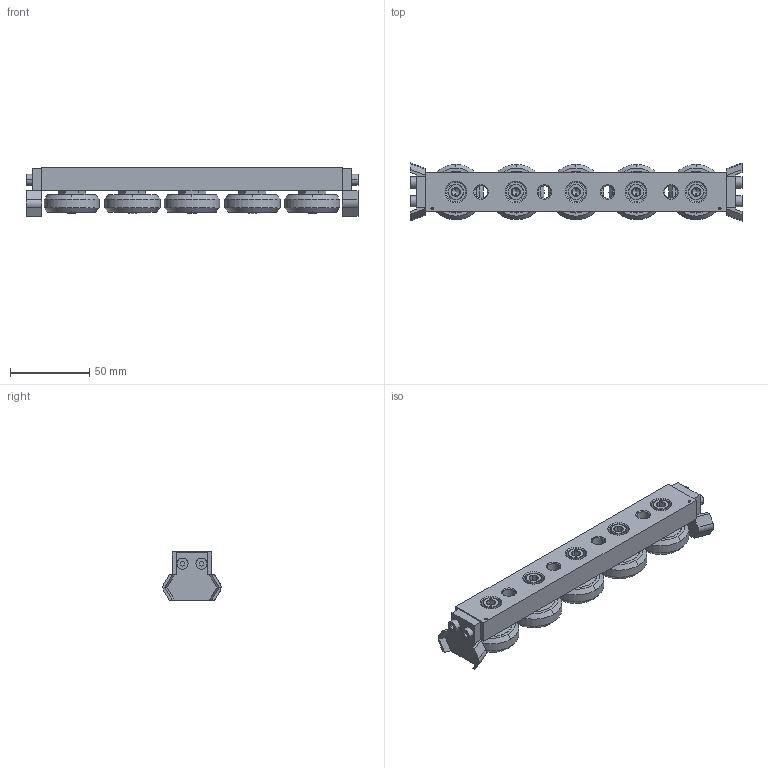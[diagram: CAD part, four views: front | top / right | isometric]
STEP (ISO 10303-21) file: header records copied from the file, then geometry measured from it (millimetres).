
FILE_DESCRIPTION (( 'STEP AP203' ), '1' );
FILE_NAME ('L1943.CSW43-190-2RST.step', '2019-03-13T08:18:04', ( '' ), ( '' ), 'SwSTEP 2.0', 'SolidWorks 2017', '' );
FILE_SCHEMA (( 'CONFIG_CONTROL_DESIGN' ));
Length unit declared in the file: millimetre
Products named in the file (6): Part1_L1943.CSW43-190-2RST; Part4; L1943.CSW43-190-2RST; Part6; Part5; Part8
Assembly tree (13 placements, depth 2):
  L1943.CSW43-190-2RST
    Part1_L1943.CSW43-190-2RST
    Part8  x5
    Part4  x3
    Part5  x2
    Part6  x2
Bounding box: 210 x 36.78 x 30.5 mm (x, y, z)
Volume: 121789.1 mm3; surface area: 43097.1 mm2
Topology: 13 solids, 13 shells, 487 faces, 1089 edges, 666 vertices
Faces by surface type: plane 219, cone 161, cylinder 90, torus 10, bspline 7
Entity records: 7526 total; most frequent: CARTESIAN_POINT 1368, DIRECTION 1193, ORIENTED_EDGE 1026, EDGE_CURVE 513, AXIS2_PLACEMENT_3D 458, VERTEX_POINT 325, EDGE_LOOP 278, VECTOR 277
